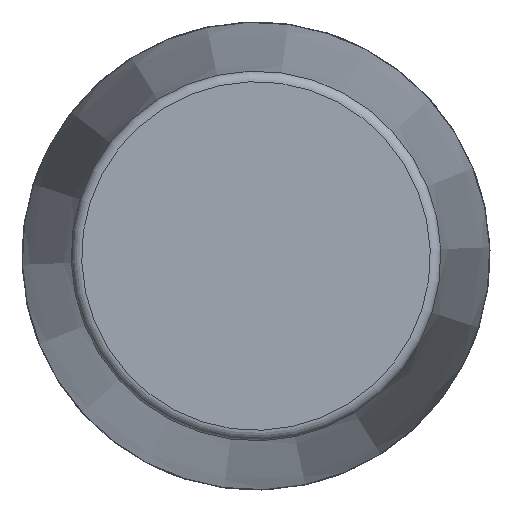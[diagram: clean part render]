
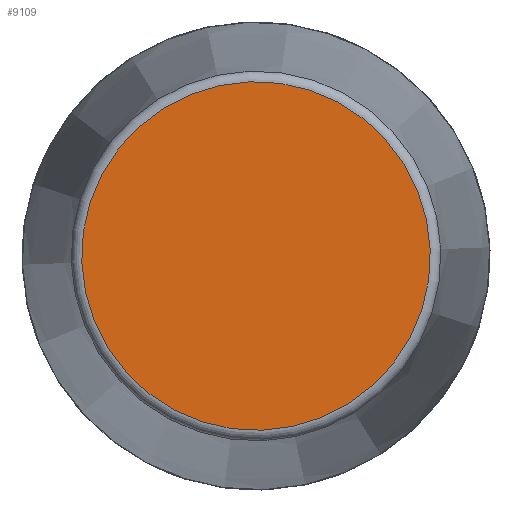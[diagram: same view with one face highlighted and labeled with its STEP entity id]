
A CAD part, front view. The second image highlights one B-rep face of the part: STEP entity #9109.
In plain terms, the highlighted planar face has unit normal (0, -1, 0) as drawn and (1, 0, 0) by its records, which use the part's own axes.
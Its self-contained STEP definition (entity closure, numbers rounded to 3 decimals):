
#2566=PLANE('',#9490);
#3161=FACE_OUTER_BOUND('',#3732,.T.);
#3732=EDGE_LOOP('',(#8580));
#3773=CIRCLE('',#9486,165.67);
#4659=VERTEX_POINT('',#17074);
#5969=EDGE_CURVE('',#4659,#4659,#3773,.T.);
#8580=ORIENTED_EDGE('',*,*,#5969,.F.);
#9109=ADVANCED_FACE('',(#3161),#2566,.T.);
#9486=AXIS2_PLACEMENT_3D('',#17075,#10907,#10908);
#9490=AXIS2_PLACEMENT_3D('',#17081,#10915,#10916);
#10907=DIRECTION('center_axis',(-1.,0.,0.));
#10908=DIRECTION('ref_axis',(0.,0.,
1.));
#10915=DIRECTION('center_axis',(1.,0.,0.));
#10916=DIRECTION('ref_axis',(0.,0.,-1.));
#17074=CARTESIAN_POINT('',(735.5,0.,-165.67));
#17075=CARTESIAN_POINT('Origin',(735.5,0.,0.));
#17081=CARTESIAN_POINT('Origin',(735.5,0.,0.));
